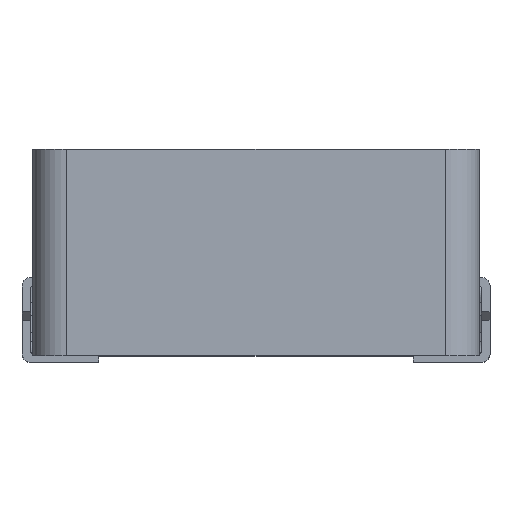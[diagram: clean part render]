
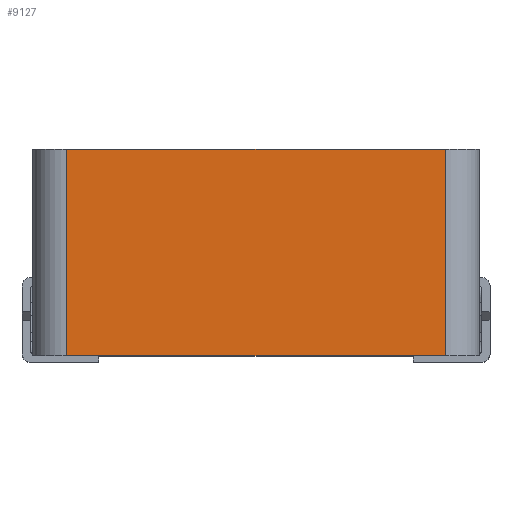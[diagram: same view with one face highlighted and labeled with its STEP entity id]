
A CAD part, top view. The second image highlights one B-rep face of the part: STEP entity #9127.
In plain terms, the highlighted planar face has unit normal (0, 0, 1).
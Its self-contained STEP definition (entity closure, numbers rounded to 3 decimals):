
#50 = CARTESIAN_POINT ( 'NONE',  ( 4.45, -1.84, 5. ) ) ;
#149 = CARTESIAN_POINT ( 'NONE',  ( 4.45, -1.84, 5. ) ) ;
#669 = CARTESIAN_POINT ( 'NONE',  ( -4.45, 3.01, 5. ) ) ;
#2201 = AXIS2_PLACEMENT_3D ( 'NONE', #2711, #3776, #4878 ) ;
#2340 = EDGE_CURVE ( 'NONE', #5925, #8228, #10792, .T. ) ;
#2711 = CARTESIAN_POINT ( 'NONE',  ( 4.45, -1.84, 5. ) ) ;
#2754 = EDGE_CURVE ( 'NONE', #8228, #6058, #11949, .T. ) ;
#3079 = VECTOR ( 'NONE', #6979, 1000. ) ;
#3399 = ORIENTED_EDGE ( 'NONE', *, *, #6448, .F. ) ;
#3776 = DIRECTION ( 'NONE',  ( 0., 0., 1. ) ) ;
#4017 = CARTESIAN_POINT ( 'NONE',  ( 4.45, 3.01, 5. ) ) ;
#4768 = FACE_OUTER_BOUND ( 'NONE', #7096, .T. ) ;
#4878 = DIRECTION ( 'NONE',  ( 1., 0., 0. ) ) ;
#5382 = DIRECTION ( 'NONE',  ( 1., 0., 0. ) ) ;
#5925 = VERTEX_POINT ( 'NONE', #7803 ) ;
#5942 = ORIENTED_EDGE ( 'NONE', *, *, #2754, .T. ) ;
#6058 = VERTEX_POINT ( 'NONE', #13336 ) ;
#6175 = VECTOR ( 'NONE', #13334, 1000. ) ;
#6216 = VECTOR ( 'NONE', #8660, 1000. ) ;
#6410 = ORIENTED_EDGE ( 'NONE', *, *, #12022, .F. ) ;
#6448 = EDGE_CURVE ( 'NONE', #5925, #13452, #7584, .T. ) ;
#6972 = PLANE ( 'NONE',  #2201 ) ;
#6979 = DIRECTION ( 'NONE',  ( 0., 1., 0. ) ) ;
#7096 = EDGE_LOOP ( 'NONE', ( #5942, #6410, #3399, #9966 ) ) ;
#7584 = LINE ( 'NONE', #11175, #3079 ) ;
#7803 = CARTESIAN_POINT ( 'NONE',  ( -4.45, -1.84, 5. ) ) ;
#8228 = VERTEX_POINT ( 'NONE', #12498 ) ;
#8660 = DIRECTION ( 'NONE',  ( 0., 1., 0. ) ) ;
#9127 = ADVANCED_FACE ( 'NONE', ( #4768 ), #6972, .T. ) ;
#9966 = ORIENTED_EDGE ( 'NONE', *, *, #2340, .T. ) ;
#10737 = LINE ( 'NONE', #4017, #6175 ) ;
#10792 = LINE ( 'NONE', #50, #13091 ) ;
#11175 = CARTESIAN_POINT ( 'NONE',  ( -4.45, -1.84, 5. ) ) ;
#11949 = LINE ( 'NONE', #149, #6216 ) ;
#12022 = EDGE_CURVE ( 'NONE', #13452, #6058, #10737, .T. ) ;
#12498 = CARTESIAN_POINT ( 'NONE',  ( 4.45, -1.84, 5. ) ) ;
#13091 = VECTOR ( 'NONE', #5382, 1000. ) ;
#13334 = DIRECTION ( 'NONE',  ( 1., 0., 0. ) ) ;
#13336 = CARTESIAN_POINT ( 'NONE',  ( 4.45, 3.01, 5. ) ) ;
#13452 = VERTEX_POINT ( 'NONE', #669 ) ;
